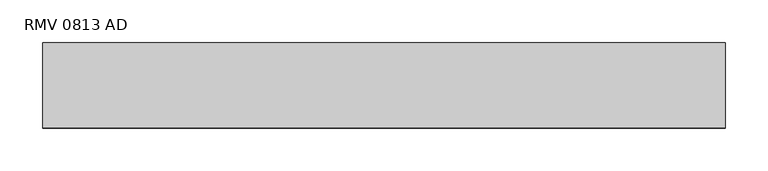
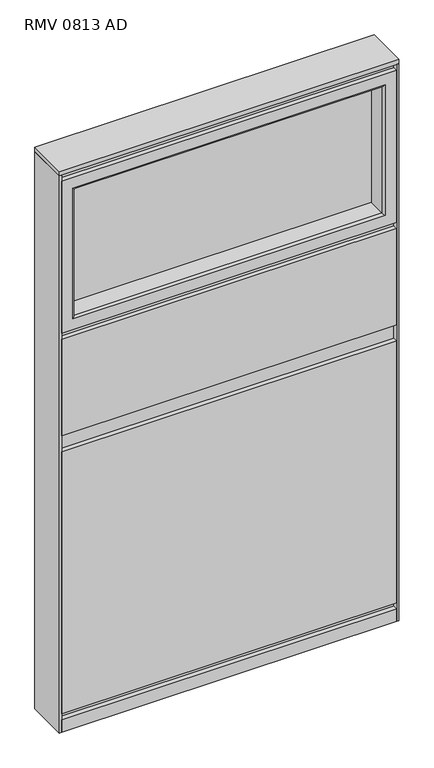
"""IFC4 building model written with IfcOpenShell, lengths in millimetres: furniture geometry, Mobiliário_MobiliáriodeEscritório_LinhaReasons_PainelMisto1400mm(Acesso02Lados)-Melamina_Marelli : RMV 0813 AD."""

from ifc_helpers import new_model, si_unit, frame, origin, origin_with_axes, place, context, project, spatial, polyline, ellipse_curve, outline, extrude, source, transform, mapped, element, save
from ifc_brep_helpers import plane_surface, cylinder_surface, advanced_brep


def rmv_0813_ad_31e4a156(model_context):
    return source(origin(), model_context, "Body", "SolidModel", [
        extrude(outline(polyline([(795.0, 100.0), (800.0, 100.0), (800.0, 0.0), (795.0, 0.0), (795.0, 100.0)])), origin_with_axes(), (0.0, 0.0, 1.0), 1389.0),
        extrude(outline(polyline([(800.0, 100.0), (800.0, 0.0), (0.0, 0.0), (0.0, 100.0), (800.0, 100.0)])), frame((0.0, 0.0, 1389.0), z_axis=(0.0, 0.0, 1.0), x_axis=(1.0, 0.0, 0.0)), (0.0, 0.0, 1.0), 11.0),
        extrude(outline(polyline([(5.0, 11.0), (5.0, 89.0), (795.0, 89.0), (795.0, 11.0), (5.0, 11.0)])), origin_with_axes(), (0.0, 0.0, 1.0), 995.0),
        extrude(outline(polyline([(795.0, 100.0), (795.0, 89.0), (5.0, 89.0), (5.0, 100.0), (795.0, 100.0)])), origin_with_axes(), (0.0, 0.0, 1.0), 32.0),
        extrude(outline(polyline([(795.0, 11.0), (795.0, 0.0), (5.0, 0.0), (5.0, 11.0), (795.0, 11.0)])), origin_with_axes(), (0.0, 0.0, 1.0), 32.0),
        extrude(outline(polyline([(795.0, 11.0), (795.0, 0.0), (5.0, 0.0), (5.0, 11.0), (795.0, 11.0)])), frame((0.0, 0.0, 47.0), z_axis=(0.0, 0.0, 1.0), x_axis=(1.0, 0.0, 0.0)), (0.0, 0.0, 1.0), 653.0),
        extrude(outline(polyline([(795.0, 11.0), (795.0, 0.0), (5.0, 0.0), (5.0, 11.0), (795.0, 11.0)])), frame((0.0, 0.0, 740.0), z_axis=(0.0, 0.0, 1.0), x_axis=(1.0, 0.0, 0.0)), (0.0, 0.0, 1.0), 240.0),
        extrude(outline(polyline([(795.0, 100.0), (795.0, 89.0), (5.0, 89.0), (5.0, 100.0), (795.0, 100.0)])), frame((0.0, 0.0, 47.0), z_axis=(0.0, 0.0, 1.0), x_axis=(1.0, 0.0, 0.0)), (0.0, 0.0, 1.0), 653.0),
        extrude(outline(polyline([(795.0, 100.0), (795.0, 89.0), (5.0, 89.0), (5.0, 100.0), (795.0, 100.0)])), frame((0.0, 0.0, 740.0), z_axis=(0.0, 0.0, 1.0), x_axis=(1.0, 0.0, 0.0)), (0.0, 0.0, 1.0), 240.0),
        extrude(outline(polyline([(0.0, 100.0), (5.0, 100.0), (5.0, 0.0), (0.0, 0.0), (0.0, 100.0)])), origin_with_axes(), (0.0, 0.0, 1.0), 1389.0),
        advanced_brep(
        [(763.5, 5.0, 1342.5), (763.5, 95.0, 1342.5), (763.5, 95.0, 1026.5), (763.5, 5.0, 1026.5), (795.0, 100.0, 1374.0), (795.0, 0.0, 1374.0), (795.0, 0.0, 995.0), (795.0, 100.0, 995.0), (36.5, 95.0, 1026.5), (36.5, 5.0, 1026.5), (5.0, 0.0, 995.0), (5.0, 100.0, 995.0), (36.5, 95.0, 1342.5), (36.5, 5.0, 1342.5), (5.0, 0.0, 1374.0), (5.0, 100.0, 1374.0), (768.5, 100.0, 1347.5), (31.5, 100.0, 1347.5), (31.5, 100.0, 1021.5), (768.5, 100.0, 1021.5), (768.5, 0.0, 1021.5), (31.5, 0.0, 1021.5), (31.5, 0.0, 1347.5), (768.5, 0.0, 1347.5)],
        [
            (0, 1),
            (1, 2),
            (2, 3),
            (3, 0),
            (4, 5),
            (5, 6),
            (6, 7),
            (7, 4),
            (2, 8),
            (8, 9),
            (9, 3),
            (6, 10),
            (10, 11),
            (11, 7),
            (8, 12),
            (12, 13),
            (13, 9),
            (10, 14),
            (14, 15),
            (15, 11),
            (15, 4),
            (16, 17),
            (17, 18),
            (18, 19),
            (19, 16),
            (12, 1),
            (0, 13),
            (5, 14),
            (20, 21),
            (21, 22),
            (22, 23),
            (23, 20),
            (1, 16, ellipse_curve(frame((768.5, 95.0, 1347.5), z_axis=(0.7071067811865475, 0.0, -0.7071067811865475), x_axis=(0.7071067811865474, 0.0, 0.7071067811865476)), 7.0710678, 5.0)),
            (19, 2, ellipse_curve(frame((768.5, 95.0, 1021.5), z_axis=(0.7071067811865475, 0.0, 0.7071067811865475), x_axis=(-0.7071067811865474, 0.0, 0.7071067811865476)), 7.0710678, 5.0)),
            (23, 0, ellipse_curve(frame((768.5, 5.0, 1347.5), z_axis=(0.7071067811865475, 0.0, -0.7071067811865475), x_axis=(0.7071067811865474, 0.0, 0.7071067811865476)), 7.0710678, 5.0)),
            (3, 20, ellipse_curve(frame((768.5, 5.0, 1021.5), z_axis=(0.7071067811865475, 0.0, 0.7071067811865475), x_axis=(-0.7071067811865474, 0.0, 0.7071067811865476)), 7.0710678, 5.0)),
            (18, 8, ellipse_curve(frame((31.5, 95.0, 1021.5), z_axis=(0.7071067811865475, 0.0, -0.7071067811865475), x_axis=(0.7071067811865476, 0.0, 0.7071067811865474)), 7.0710678, 5.0)),
            (9, 21, ellipse_curve(frame((31.5, 5.0, 1021.5), z_axis=(0.7071067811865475, 0.0, -0.7071067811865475), x_axis=(0.7071067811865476, 0.0, 0.7071067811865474)), 7.0710678, 5.0)),
            (17, 12, ellipse_curve(frame((31.5, 95.0, 1347.5), z_axis=(-0.7071067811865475, 0.0, -0.7071067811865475), x_axis=(0.7071067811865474, 0.0, -0.7071067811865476)), 7.0710678, 5.0)),
            (13, 22, ellipse_curve(frame((31.5, 5.0, 1347.5), z_axis=(-0.7071067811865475, 0.0, -0.7071067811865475), x_axis=(0.7071067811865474, 0.0, -0.7071067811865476)), 7.0710678, 5.0)),
        ],
        [
            plane_surface(frame((763.5, 95.0, 1342.5), z_axis=(-1.0, 0.0, 0.0), x_axis=(0.0, 0.0, -1.0))),
            plane_surface(frame((795.0, 0.0, 1374.0), z_axis=(1.0, 0.0, 0.0), x_axis=(0.0, 0.0, -1.0))),
            plane_surface(frame((763.5, 95.0, 1026.5), z_axis=(0.0, 0.0, 1.0), x_axis=(-1.0, 0.0, 0.0))),
            plane_surface(frame((795.0, 0.0, 995.0), z_axis=(0.0, 0.0, -1.0), x_axis=(-1.0, 0.0, 0.0))),
            plane_surface(frame((36.5, 95.0, 1026.5), z_axis=(1.0, 0.0, 0.0), x_axis=(0.0, 0.0, 1.0))),
            plane_surface(frame((5.0, 0.0, 995.0), z_axis=(-1.0, 0.0, 0.0), x_axis=(0.0, 0.0, 1.0))),
            plane_surface(frame((5.0, 100.0, 1374.0), z_axis=(0.0, 1.0, 0.0), x_axis=(1.0, 0.0, 0.0))),
            plane_surface(frame((36.5, 95.0, 1342.5), z_axis=(0.0, 0.0, -1.0), x_axis=(1.0, 0.0, 0.0))),
            plane_surface(frame((31.5, 0.0, 1347.5), z_axis=(0.0, -1.0, 0.0), x_axis=(1.0, 0.0, 0.0))),
            plane_surface(frame((5.0, 0.0, 1374.0), z_axis=(0.0, 0.0, 1.0), x_axis=(1.0, 0.0, 0.0))),
            cylinder_surface(frame((768.5, 95.0, 1374.0), z_axis=(0.0, 0.0, 1.0), x_axis=(1.0, 0.0, 0.0)), 5.0),
            cylinder_surface(frame((768.5, 5.0, 1374.0), z_axis=(0.0, 0.0, 1.0), x_axis=(1.0, 0.0, 0.0)), 5.0),
            cylinder_surface(frame((795.0, 95.0, 1021.5), z_axis=(1.0, 0.0, 0.0), x_axis=(0.0, 0.0, -1.0)), 5.0),
            cylinder_surface(frame((795.0, 5.0, 1021.5), z_axis=(1.0, 0.0, 0.0), x_axis=(0.0, 0.0, -1.0)), 5.0),
            cylinder_surface(frame((31.5, 95.0, 995.0), z_axis=(0.0, 0.0, -1.0), x_axis=(-1.0, 0.0, 0.0)), 5.0),
            cylinder_surface(frame((31.5, 5.0, 995.0), z_axis=(0.0, 0.0, -1.0), x_axis=(-1.0, 0.0, 0.0)), 5.0),
            cylinder_surface(frame((5.0, 95.0, 1347.5), z_axis=(-1.0, 0.0, 0.0), x_axis=(0.0, 0.0, 1.0)), 5.0),
            cylinder_surface(frame((5.0, 5.0, 1347.5), z_axis=(-1.0, 0.0, 0.0), x_axis=(0.0, 0.0, 1.0)), 5.0),
        ],
        [
            (0, [[1, 2, 3, 4]]),
            (1, [[5, 6, 7, 8]]),
            (2, [[-3, 9, 10, 11]]),
            (3, [[-7, 12, 13, 14]]),
            (4, [[-10, 15, 16, 17]]),
            (5, [[-13, 18, 19, 20]]),
            (6, [[-14, -20, 21, -8], [22, 23, 24, 25]]),
            (7, [[-16, 26, -1, 27]]),
            (8, [[28, -18, -12, -6], [29, 30, 31, 32]]),
            (9, [[-19, -28, -5, -21]]),
            (10, [[33, -25, 34, -2]]),
            (11, [[35, -4, 36, -32]]),
            (12, [[-34, -24, 37, -9]]),
            (13, [[-36, -11, 38, -29]]),
            (14, [[-37, -23, 39, -15]]),
            (15, [[-38, -17, 40, -30]]),
            (16, [[-39, -22, -33, -26]]),
            (17, [[-40, -27, -35, -31]]),
        ],
    ),
        extrude(outline(polyline([(5.0, 11.0), (5.0, 89.0), (795.0, 89.0), (795.0, 11.0), (5.0, 11.0)])), frame((0.0, 0.0, 1374.0), z_axis=(0.0, 0.0, 1.0), x_axis=(1.0, 0.0, 0.0)), (0.0, 0.0, 1.0), 15.0),
        extrude(outline(polyline([(763.5, 52.0), (763.5, 48.0), (36.5677845, 48.0), (36.5677845, 52.0), (763.5, 52.0)])), frame((0.0, 0.0, 1026.5), z_axis=(0.0, 0.0, 1.0), x_axis=(1.0, 0.0, 0.0)), (0.0, 0.0, 1.0), 316.0),
    ])


if __name__ == "__main__":
    model = new_model("IFC4")
    model_context = context("Model", 3, world=origin())
    ifc_project = project(units=[si_unit("LENGTHUNIT", "METRE", prefix="MILLI")], contexts=[model_context])
    site = spatial("IfcSite", under=ifc_project)
    building = spatial("IfcBuilding", under=site)
    placement = place(None, origin())
    rmv_0813_ad_shape = rmv_0813_ad_31e4a156(model_context)
    element("IfcFurniture", 1, ObjectType="Mobiliário_MobiliáriodeEscritório_LinhaReasons_PainelMisto1400mm(Acesso02Lados)-Melamina_Marelli : RMV 0813 AD", at=placement, inside=building, context=model_context, shape_type="MappedRepresentation", body=[
        mapped(rmv_0813_ad_shape, transform((0.0, 0.0, 0.0), x_axis=(1.0, 0.0, 0.0), y_axis=(0.0, 1.0, 0.0), z_axis=(0.0, 0.0, 1.0))),
    ])
    save(model, "model.ifc")
